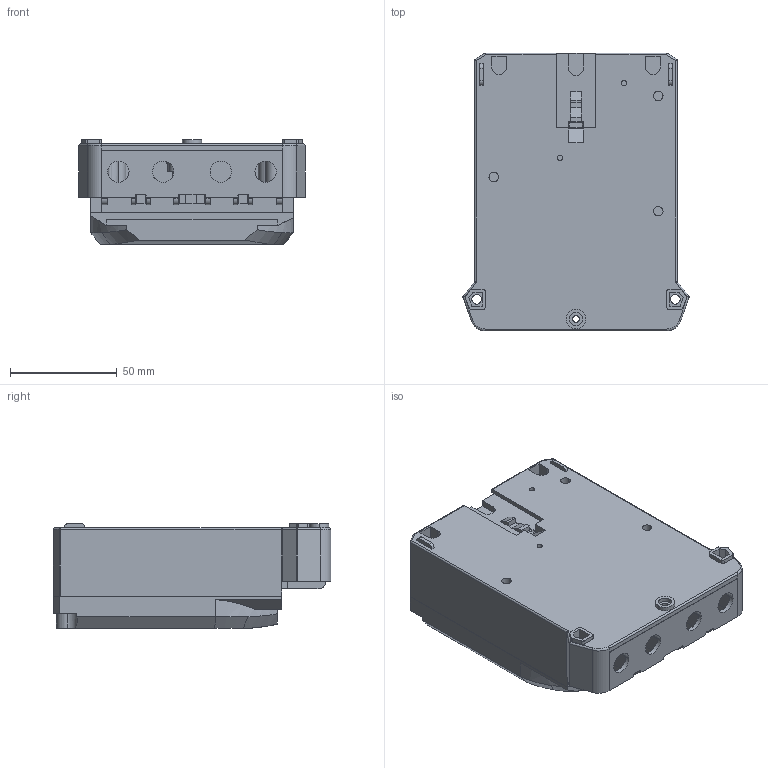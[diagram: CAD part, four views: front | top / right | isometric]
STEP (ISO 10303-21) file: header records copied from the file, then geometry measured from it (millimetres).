
FILE_DESCRIPTION (( 'STEP AP203' ), '1' );
FILE_NAME ('欭殣玁獥捗檠102.STEP', '2018-09-04T07:18:33', ( '' ), ( '' ), 'SwSTEP 2.0', 'SolidWorks 2017', '' );
FILE_SCHEMA (( 'CONFIG_CONTROL_DESIGN' ));
Length unit declared in the file: millimetre
Products named in the file (4): Êðûøêà_102; Êëåììíàÿ êîëîäêà_ÑÊÀÒ102; 欭殣玁獥捗檠102; 昢膼瘔膻嬅102
Assembly tree (3 placements, depth 2):
  欭殣玁獥捗檠102
    昢膼瘔膻嬅102
    Êðûøêà_102
    Êëåììíàÿ êîëîäêà_ÑÊÀÒ102
Bounding box: 105.88 x 130 x 49 mm (x, y, z)
Volume: 140959.9 mm3; surface area: 109081.8 mm2
Topology: 3 solids, 3 shells, 761 faces, 2062 edges, 1335 vertices
Faces by surface type: plane 508, cylinder 223, torus 10, bspline 10, sphere 6, cone 4
Entity records: 24750 total; most frequent: CARTESIAN_POINT 4919, ORIENTED_EDGE 4088, DIRECTION 4008, EDGE_CURVE 2044, LINE 1490, VECTOR 1490, VERTEX_POINT 1329, AXIS2_PLACEMENT_3D 1259
